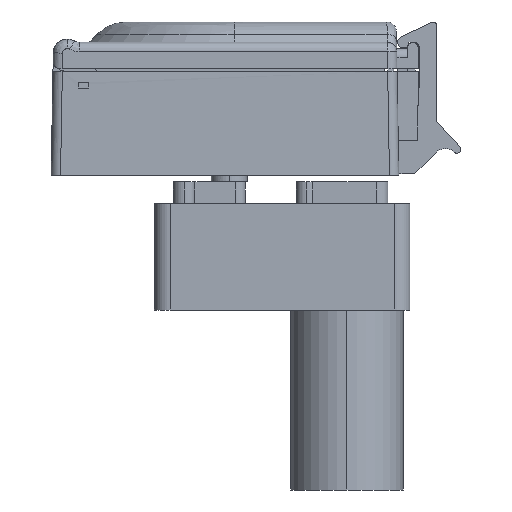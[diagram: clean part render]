
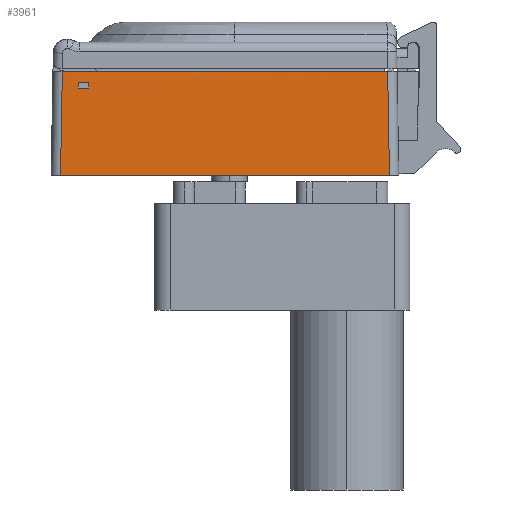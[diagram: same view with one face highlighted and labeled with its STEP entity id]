
A CAD part, left-side view. The second image highlights one B-rep face of the part: STEP entity #3961.
In plain terms, the highlighted planar face has unit normal (1, 0, -0.018).
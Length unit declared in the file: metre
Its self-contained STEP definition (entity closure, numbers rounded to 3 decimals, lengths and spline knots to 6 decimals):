
#8 = LINE ( 'NONE', #13431, #12258 ) ;
#219 = CARTESIAN_POINT ( 'NONE',  ( -0.058, -0.049581, 0.006 ) ) ;
#1234 = VERTEX_POINT ( 'NONE', #12645 ) ;
#1292 = ORIENTED_EDGE ( 'NONE', *, *, #9329, .F. ) ;
#1795 = DIRECTION ( 'NONE',  ( -0.017, 0.017, -1. ) ) ;
#2192 = DIRECTION ( 'NONE',  ( 0.017, 0.017, 1. ) ) ;
#2378 = ORIENTED_EDGE ( 'NONE', *, *, #19483, .F. ) ;
#3656 = EDGE_CURVE ( 'NONE', #1234, #19655, #24590, .T. ) ;
#3961 = ADVANCED_FACE ( 'NONE', ( #8736, #20982 ), #15725, .F. ) ;
#4050 = VECTOR ( 'NONE', #21764, 1. ) ;
#4204 = CARTESIAN_POINT ( 'NONE',  ( -0.057517, 0.049879, 0.03575 ) ) ;
#4259 = CARTESIAN_POINT ( 'NONE',  ( -0.057513, 0.049846, 0.033881 ) ) ;
#4292 = CARTESIAN_POINT ( 'NONE',  ( -0.057524, 0.049851, 0.034503 ) ) ;
#4360 = CARTESIAN_POINT ( 'NONE',  ( -0.057535, 0.049856, 0.035126 ) ) ;
#5657 = CARTESIAN_POINT ( 'NONE',  ( -0.057513, 0.0585, 0.033881 ) ) ;
#6223 = VECTOR ( 'NONE', #1795, 1. ) ;
#6595 = LINE ( 'NONE', #24611, #12697 ) ;
#6668 = EDGE_CURVE ( 'NONE', #10444, #25089, #23155, .T. ) ;
#8185 = EDGE_CURVE ( 'NONE', #25089, #22580, #22478, .T. ) ;
#8736 = FACE_BOUND ( 'NONE', #20485, .T. ) ;
#9227 = EDGE_CURVE ( 'NONE', #19655, #25123, #15818, .T. ) ;
#9329 = EDGE_CURVE ( 'NONE', #17237, #10444, #8, .T. ) ;
#10039 = EDGE_LOOP ( 'NONE', ( #2378, #13976, #10093, #29856 ) ) ;
#10093 = ORIENTED_EDGE ( 'NONE', *, *, #9227, .F. ) ;
#10444 = VERTEX_POINT ( 'NONE', #14874 ) ;
#10615 = DIRECTION ( 'NONE',  ( 0., 1., 0. ) ) ;
#10930 = CARTESIAN_POINT ( 'NONE',  ( -0.057517, 0.049879, 0.03575 ) ) ;
#11669 = LINE ( 'NONE', #19933, #23191 ) ;
#12258 = VECTOR ( 'NONE', #13470, 1. ) ;
#12645 = CARTESIAN_POINT ( 'NONE',  ( -0.05742, 0.05492, 0.03925 ) ) ;
#12697 = VECTOR ( 'NONE', #10615, 1. ) ;
#13019 = CARTESIAN_POINT ( 'NONE',  ( -0.057517, 0.049879, 0.03575 ) ) ;
#13258 = CARTESIAN_POINT ( 'NONE',  ( -0.057546, 0.047599, 0.03575 ) ) ;
#13431 = CARTESIAN_POINT ( 'NONE',  ( -0.057481, 0.046386, 0.03575 ) ) ;
#13470 = DIRECTION ( 'NONE',  ( -0.017, 0.037, -0.999 ) ) ;
#13679 = EDGE_CURVE ( 'NONE', #25123, #15498, #11669, .T. ) ;
#13976 = ORIENTED_EDGE ( 'NONE', *, *, #13679, .F. ) ;
#14874 = CARTESIAN_POINT ( 'NONE',  ( -0.057513, 0.046455, 0.033881 ) ) ;
#15498 = VERTEX_POINT ( 'NONE', #22224 ) ;
#15515 = DIRECTION ( 'NONE',  ( 0.017, 0., 1. ) ) ;
#15524 = CARTESIAN_POINT ( 'NONE',  ( -0.058, -0.049581, 0.006 ) ) ;
#15559 = CARTESIAN_POINT ( 'NONE',  ( -0.058, 0.0555, 0.006 ) ) ;
#15617 = DIRECTION ( 'NONE',  ( -1., 0., 0.017 ) ) ;
#15725 = PLANE ( 'NONE',  #26548 ) ;
#15737 = CARTESIAN_POINT ( 'NONE',  ( -0.058, 0.020473, 0.006 ) ) ;
#15818 = B_SPLINE_CURVE_WITH_KNOTS ( 'NONE', 3,
 ( #15559, #15737, #16713, #15524 ),
 .UNSPECIFIED., .F., .F.,
 ( 4, 4 ),
 ( 0., 1. ),
 .UNSPECIFIED. ) ;
#16713 = CARTESIAN_POINT ( 'NONE',  ( -0.058, -0.014554, 0.006 ) ) ;
#17237 = VERTEX_POINT ( 'NONE', #19886 ) ;
#17239 = CARTESIAN_POINT ( 'NONE',  ( -0.058, 0.0585, 0.006 ) ) ;
#17927 = CARTESIAN_POINT ( 'NONE',  ( -0.05742, 0.05492, 0.03925 ) ) ;
#19397 = ORIENTED_EDGE ( 'NONE', *, *, #21117, .F. ) ;
#19483 = EDGE_CURVE ( 'NONE', #15498, #1234, #6595, .T. ) ;
#19655 = VERTEX_POINT ( 'NONE', #23576 ) ;
#19886 = CARTESIAN_POINT ( 'NONE',  ( -0.057513, 0.046413, 0.03575 ) ) ;
#19933 = CARTESIAN_POINT ( 'NONE',  ( -0.058, -0.049581, 0.006 ) ) ;
#20485 = EDGE_LOOP ( 'NONE', ( #22893, #25268, #1292, #19397 ) ) ;
#20982 = FACE_OUTER_BOUND ( 'NONE', #10039, .T. ) ;
#21117 = EDGE_CURVE ( 'NONE', #22580, #17237, #23547, .T. ) ;
#21764 = DIRECTION ( 'NONE',  ( 0., 1., 0. ) ) ;
#22224 = CARTESIAN_POINT ( 'NONE',  ( -0.05742, -0.049, 0.03925 ) ) ;
#22397 = CARTESIAN_POINT ( 'NONE',  ( -0.057546, 0.048757, 0.03575 ) ) ;
#22478 = B_SPLINE_CURVE_WITH_KNOTS ( 'NONE', 3,
 ( #4259, #4292, #4360, #4204 ),
 .UNSPECIFIED., .F., .F.,
 ( 4, 4 ),
 ( 0., 1. ),
 .UNSPECIFIED. ) ;
#22580 = VERTEX_POINT ( 'NONE', #13019 ) ;
#22893 = ORIENTED_EDGE ( 'NONE', *, *, #8185, .F. ) ;
#23155 = LINE ( 'NONE', #5657, #4050 ) ;
#23191 = VECTOR ( 'NONE', #2192, 1. ) ;
#23547 = B_SPLINE_CURVE_WITH_KNOTS ( 'NONE', 3,
 ( #10930, #22397, #13258, #29312 ),
 .UNSPECIFIED., .F., .F.,
 ( 4, 4 ),
 ( 0., 1. ),
 .UNSPECIFIED. ) ;
#23576 = CARTESIAN_POINT ( 'NONE',  ( -0.058, 0.0555, 0.006 ) ) ;
#24590 = LINE ( 'NONE', #17927, #6223 ) ;
#24611 = CARTESIAN_POINT ( 'NONE',  ( -0.05742, -0.059, 0.03925 ) ) ;
#25089 = VERTEX_POINT ( 'NONE', #27659 ) ;
#25123 = VERTEX_POINT ( 'NONE', #219 ) ;
#25268 = ORIENTED_EDGE ( 'NONE', *, *, #6668, .F. ) ;
#26548 = AXIS2_PLACEMENT_3D ( 'NONE', #17239, #15617, #15515 ) ;
#27659 = CARTESIAN_POINT ( 'NONE',  ( -0.057513, 0.049846, 0.033881 ) ) ;
#29312 = CARTESIAN_POINT ( 'NONE',  ( -0.057513, 0.046413, 0.03575 ) ) ;
#29856 = ORIENTED_EDGE ( 'NONE', *, *, #3656, .F. ) ;
